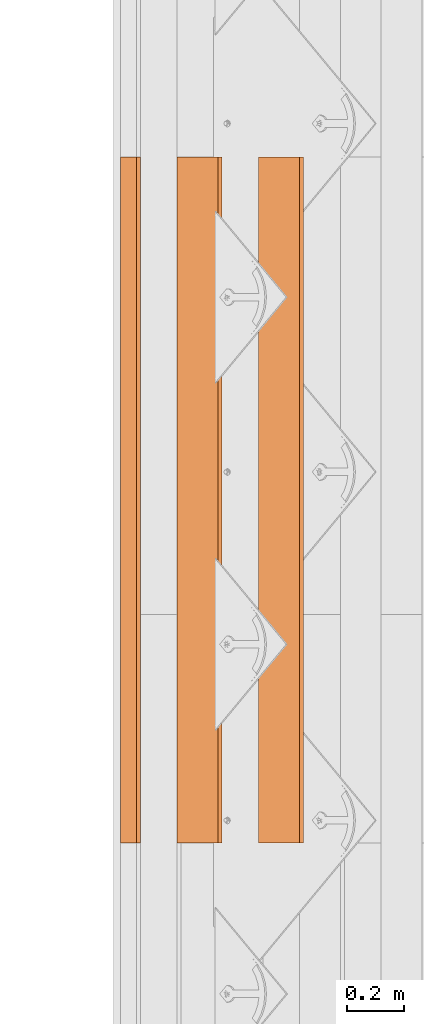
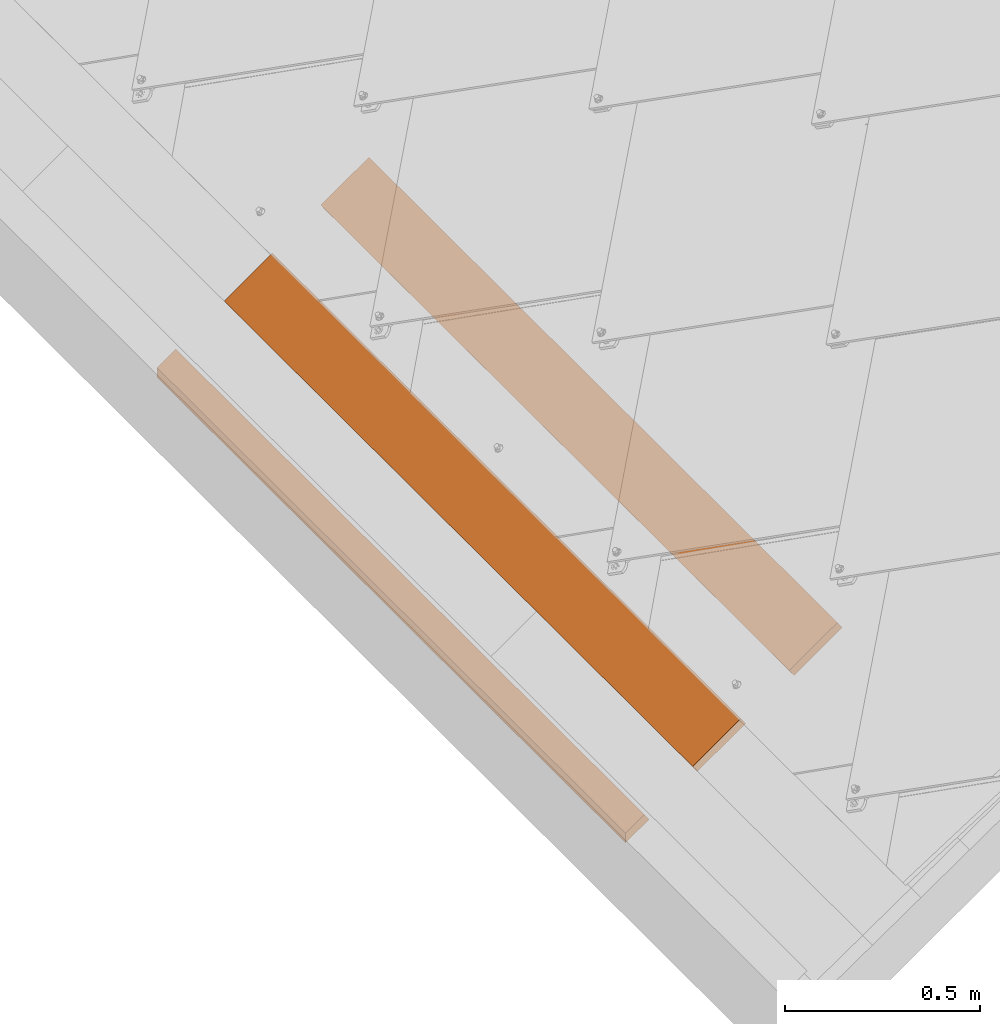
# One storey, part 23 of 133: 3 proxies, 1 element without a shape of its own.
"""IFC2X3 building model written with IfcOpenShell, lengths in millimetres."""

from ifc_helpers import new_model, entity, si_unit, converted_unit, derived_unit, direction, frame, frame_2d, origin, place, context, subcontext, project, spatial, polyline, rectangle, outline, extrude, source, transform, mapped, material, type_object, type_shapes, element, aggregate, save


model = new_model("IFC2X3")

# Units and contexts
model_context = context("Model", 3, precision=0.01, world=origin(), true_north=direction((6.12303176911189e-17, 1.0)))
body_context = subcontext(model_context, "Body", "Model", "MODEL_VIEW")
ifc_project = project(units=[si_unit("LENGTHUNIT", "METRE", prefix="MILLI"), si_unit("AREAUNIT", "SQUARE_METRE"), si_unit("VOLUMEUNIT", "CUBIC_METRE"), converted_unit("PLANEANGLEUNIT", "DEGREE", entity("IfcRatioMeasure", 0.0174532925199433), si_unit("PLANEANGLEUNIT", "RADIAN"), dimensions=[0, 0, 0, 0, 0, 0, 0]), si_unit("MASSUNIT", "GRAM", prefix="KILO"), derived_unit("MASSDENSITYUNIT", [(si_unit("MASSUNIT", "GRAM", prefix="KILO"), 1), (si_unit("LENGTHUNIT", "METRE"), -3)]), si_unit("TIMEUNIT", "SECOND"), si_unit("FREQUENCYUNIT", "HERTZ"), si_unit("THERMODYNAMICTEMPERATUREUNIT", "DEGREE_CELSIUS"), derived_unit("THERMALTRANSMITTANCEUNIT", [(si_unit("MASSUNIT", "GRAM", prefix="KILO"), 1), (si_unit("THERMODYNAMICTEMPERATUREUNIT", "KELVIN"), -1), (si_unit("TIMEUNIT", "SECOND"), -3)]), derived_unit("VOLUMETRICFLOWRATEUNIT", [(si_unit("LENGTHUNIT", "METRE"), 3), (si_unit("TIMEUNIT", "SECOND"), -1)]), si_unit("ELECTRICCURRENTUNIT", "AMPERE"), si_unit("ELECTRICVOLTAGEUNIT", "VOLT"), si_unit("POWERUNIT", "WATT"), si_unit("FORCEUNIT", "NEWTON", prefix="KILO"), si_unit("ILLUMINANCEUNIT", "LUX"), si_unit("LUMINOUSFLUXUNIT", "LUMEN"), si_unit("LUMINOUSINTENSITYUNIT", "CANDELA"), derived_unit("USERDEFINED", [(si_unit("MASSUNIT", "GRAM", prefix="KILO"), -1), (si_unit("LENGTHUNIT", "METRE"), -2), (si_unit("TIMEUNIT", "SECOND"), 3), (si_unit("LUMINOUSFLUXUNIT", "LUMEN"), 1)]), derived_unit("LINEARVELOCITYUNIT", [(si_unit("LENGTHUNIT", "METRE"), 1), (si_unit("TIMEUNIT", "SECOND"), -1)]), si_unit("PRESSUREUNIT", "PASCAL"), derived_unit("USERDEFINED", [(si_unit("LENGTHUNIT", "METRE"), -2), (si_unit("MASSUNIT", "GRAM", prefix="KILO"), 1), (si_unit("TIMEUNIT", "SECOND"), -2)])], contexts=[model_context])

# Site, building, storey
site_placement = place(None, origin())
site = spatial("IfcSite", under=ifc_project, at=site_placement, Name="Default", CompositionType="ELEMENT")
building_placement = place(site_placement, origin())
building = spatial("IfcBuilding", under=site, at=building_placement, CompositionType="ELEMENT")
storey_placement = place(building_placement, origin())
storey = spatial("IfcBuildingStorey", under=building, at=storey_placement, Name="Level 1", CompositionType="ELEMENT", Elevation=0.0)

# Assembly, proxies
assembly_placement = place(storey_placement, origin())
assembly = element("IfcElementAssembly", 1, at=assembly_placement, inside=storey, Name="Structural Framing Assembly:Roof Construction Assembly", ObjectType="Structural Framing Assembly:Roof Construction Assembly", AssemblyPlace="NOTDEFINED", PredefinedType="USERDEFINED")
ifc_material = material(Name="Wood - Generic - Wood For Showcase")
building_element_proxy_type_1 = type_object("IfcBuildingElementProxyType", Name="Structural Framing 15", PredefinedType="NOTDEFINED", material=ifc_material)
shared_shape_1 = source(origin(), body_context, "Body", "SweptSolid", [
    extrude(rectangle(XDim=24.9999999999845, YDim=174.344679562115, at=frame_2d((-1.77635683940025e-13, -4.54747350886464e-13), x_axis=(0.0, 1.0))), frame((1128.20180147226, 1595.55080214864, 2760.23940055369), z_axis=(0.0, 1.0, 0.0), x_axis=(-0.819152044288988, 0.0, -0.573576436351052)), (0.0, 0.0, 1.0), 2400.00000000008),
])
type_shapes(building_element_proxy_type_1, [shared_shape_1])
proxy_1_placement = place(assembly_placement, frame((-3284.74041550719, -5740.0, -2300.0)))
proxy_1 = element("IfcBuildingElementProxy", 2, at=proxy_1_placement, type_object=building_element_proxy_type_1, material=ifc_material, Name="Structural Framing 132:Structural Framing 15", ObjectType="Structural Framing 132:Structural Framing 15", context=body_context, shape_type="MappedRepresentation", body=[
    mapped(shared_shape_1, transform((0.0, 0.0, 0.0), scale=1.0)),
])
building_element_proxy_type_2 = type_object("IfcBuildingElementProxyType", Name="Structural Framing 15", PredefinedType="NOTDEFINED", material=ifc_material)
shared_shape_2 = source(origin(), body_context, "Body", "SweptSolid", [
    extrude(rectangle(XDim=24.9999999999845, YDim=174.344679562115, at=frame_2d((-1.77635683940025e-13, -4.54747350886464e-13), x_axis=(0.0, 1.0))), frame((1128.20180147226, 1595.55080214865, 2760.23940055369), z_axis=(0.0, 1.0, 0.0), x_axis=(-0.819152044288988, 0.0, -0.573576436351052)), (0.0, 0.0, 1.0), 2400.00000000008),
])
type_shapes(building_element_proxy_type_2, [shared_shape_2])
proxy_2_placement = place(assembly_placement, frame((-3570.37001685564, -5740.0, -2500.0)))
proxy_2 = element("IfcBuildingElementProxy", 3, at=proxy_2_placement, type_object=building_element_proxy_type_2, material=ifc_material, Name="Structural Framing 142:Structural Framing 15", ObjectType="Structural Framing 142:Structural Framing 15", context=body_context, shape_type="MappedRepresentation", body=[
    mapped(shared_shape_2, transform((0.0, 0.0, 0.0), scale=1.0)),
])
building_element_proxy_type_3 = type_object("IfcBuildingElementProxyType", Name="Structural Framing 15", PredefinedType="NOTDEFINED", material=ifc_material)
shared_shape_3 = source(origin(), body_context, "Body", "SweptSolid", [
    extrude(outline(polyline([(-38.2231230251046, -12.499999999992), (46.9757172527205, -12.499999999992), (29.4705287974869, 12.4999999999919), (-38.2231230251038, 12.4999999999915), (-38.2231230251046, -12.499999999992)])), frame((-2687.70096575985, -6511.94919785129, 88.3155178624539), z_axis=(0.0, 1.0, 0.0), x_axis=(-0.81915204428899, 0.0, -0.573576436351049)), (0.0, 0.0, 1.0), 2400.00000000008),
])
type_shapes(building_element_proxy_type_3, [shared_shape_3])
proxy_3_placement = place(assembly_placement, frame((0.0, 2367.49999999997, 0.0)))
proxy_3 = element("IfcBuildingElementProxy", 4, at=proxy_3_placement, type_object=building_element_proxy_type_3, material=ifc_material, Name="Structural Framing 151:Structural Framing 15", ObjectType="Structural Framing 151:Structural Framing 15", context=body_context, shape_type="MappedRepresentation", body=[
    mapped(shared_shape_3, transform((0.0, 0.0, 0.0), scale=1.0)),
])
aggregate(assembly, [proxy_1, proxy_2, proxy_3])

save(model, "model.ifc")
